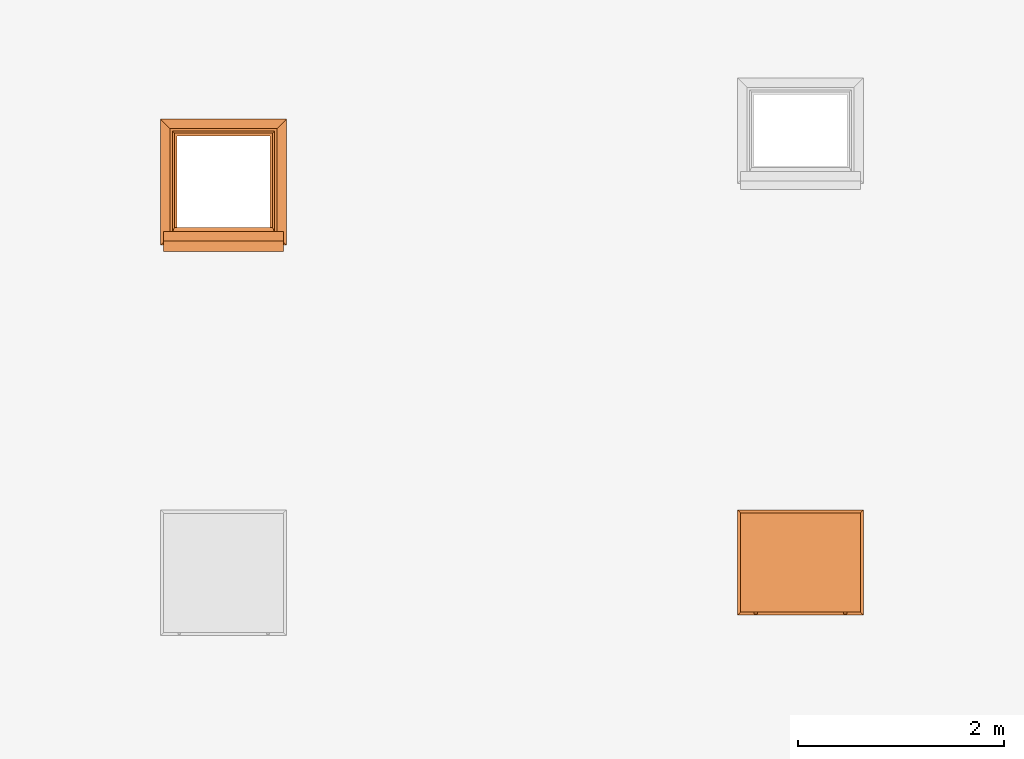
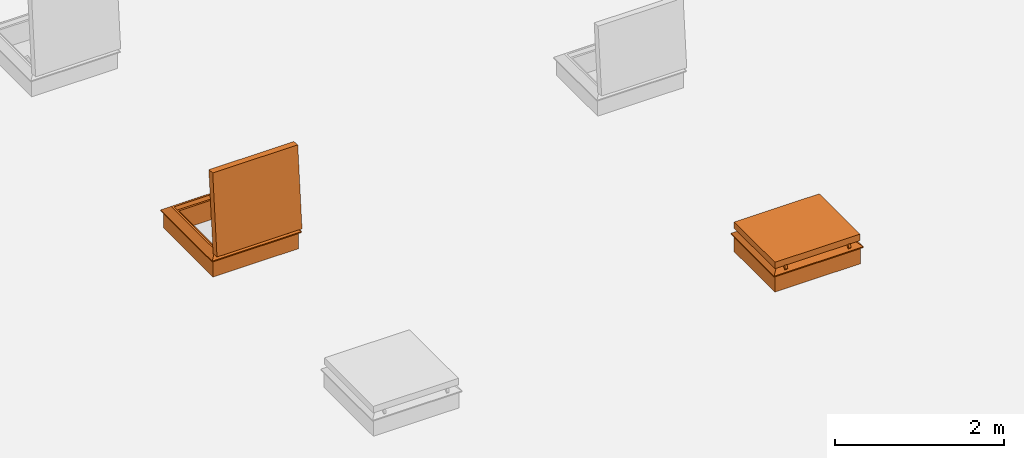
# One storey, part 24 of 28: 2 proxies.
"""IFC2X3 building model written with IfcOpenShell, lengths in millimetres."""

from ifc_helpers import new_model, entity, si_unit, converted_unit, derived_unit, direction, frame, origin, place, context, subcontext, project, spatial, faceted_brep, source, transform, mapped, type_object, type_shapes, element, save


model = new_model("IFC2X3")

# Units and contexts
model_context = context("Model", 3, precision=0.01, world=origin(), true_north=direction((6.12303176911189e-17, 1.0)))
body_context = subcontext(model_context, "Body", "Model", "MODEL_VIEW")
ifc_project = project(units=[si_unit("LENGTHUNIT", "METRE", prefix="MILLI"), si_unit("AREAUNIT", "SQUARE_METRE"), si_unit("VOLUMEUNIT", "CUBIC_METRE"), converted_unit("PLANEANGLEUNIT", "DEGREE", entity("IfcRatioMeasure", 0.0174532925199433), si_unit("PLANEANGLEUNIT", "RADIAN"), dimensions=[0, 0, 0, 0, 0, 0, 0]), si_unit("MASSUNIT", "GRAM", prefix="KILO"), derived_unit("MASSDENSITYUNIT", [(si_unit("MASSUNIT", "GRAM", prefix="KILO"), 1), (si_unit("LENGTHUNIT", "METRE"), -3)]), si_unit("TIMEUNIT", "SECOND"), si_unit("FREQUENCYUNIT", "HERTZ"), si_unit("THERMODYNAMICTEMPERATUREUNIT", "DEGREE_CELSIUS"), derived_unit("THERMALTRANSMITTANCEUNIT", [(si_unit("MASSUNIT", "GRAM", prefix="KILO"), 1), (si_unit("THERMODYNAMICTEMPERATUREUNIT", "KELVIN"), -1), (si_unit("TIMEUNIT", "SECOND"), -3)]), derived_unit("VOLUMETRICFLOWRATEUNIT", [(si_unit("LENGTHUNIT", "METRE"), 3), (si_unit("TIMEUNIT", "SECOND"), -1)]), si_unit("ELECTRICCURRENTUNIT", "AMPERE"), si_unit("ELECTRICVOLTAGEUNIT", "VOLT"), si_unit("POWERUNIT", "WATT"), si_unit("FORCEUNIT", "NEWTON", prefix="KILO"), si_unit("ILLUMINANCEUNIT", "LUX"), si_unit("LUMINOUSFLUXUNIT", "LUMEN"), si_unit("LUMINOUSINTENSITYUNIT", "CANDELA"), derived_unit("USERDEFINED", [(si_unit("MASSUNIT", "GRAM", prefix="KILO"), -1), (si_unit("LENGTHUNIT", "METRE"), -2), (si_unit("TIMEUNIT", "SECOND"), 3), (si_unit("LUMINOUSFLUXUNIT", "LUMEN"), 1)]), derived_unit("LINEARVELOCITYUNIT", [(si_unit("LENGTHUNIT", "METRE"), 1), (si_unit("TIMEUNIT", "SECOND"), -1)]), si_unit("PRESSUREUNIT", "PASCAL"), derived_unit("USERDEFINED", [(si_unit("LENGTHUNIT", "METRE"), -2), (si_unit("MASSUNIT", "GRAM", prefix="KILO"), 1), (si_unit("TIMEUNIT", "SECOND"), -2)])], contexts=[model_context])

# Site, building, storey
site_placement = place(None, origin())
site = spatial("IfcSite", under=ifc_project, at=site_placement, Name="Default", CompositionType="ELEMENT")
building_placement = place(site_placement, origin())
building = spatial("IfcBuilding", under=site, at=building_placement, CompositionType="ELEMENT")
storey_placement = place(building_placement, frame((0.0, 0.0, 4000.0)))
storey = spatial("IfcBuildingStorey", under=building, at=storey_placement, Name="Level 2", CompositionType="ELEMENT", Elevation=4000.0)

# Proxies
building_element_proxy_type_1 = type_object("IfcBuildingElementProxyType", Name="900 x 900", PredefinedType="NOTDEFINED")
shared_shape_1 = source(origin(), body_context, "Body", "Brep", [
    faceted_brep([(-1025.81180060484, -352.9006607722, 333.094802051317), (-1025.81180060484, -352.274840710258, 333.878753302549), (-1025.81180060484, -351.473721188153, 334.482440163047), (-1025.81180060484, -350.547639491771, 334.867930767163), (-1025.81180060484, -349.554784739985, 335.011003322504), (-1025.81180060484, -348.557541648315, 334.902668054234), (-1025.81180060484, -347.618570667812, 334.549732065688), (-1025.81180060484, -346.796870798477, 333.974371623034), (-1025.81180060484, -346.1440724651, 333.212738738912), (-1025.81180060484, -345.701193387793, 332.31268960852), (-1025.81180060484, -345.496061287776, 331.330777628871), (-1025.81180060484, -345.541565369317, 330.328699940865), (-1025.81180060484, -345.834846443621, 329.369420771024), (-1025.81180060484, -346.357476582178, 328.513215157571), (-1025.81180060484, -347.076617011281, 327.813881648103), (-1025.81180060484, -347.442865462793, 324.584309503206), (-1025.81180060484, -344.763632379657, 322.744205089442), (-1025.81180060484, -309.427027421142, 309.700701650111), (-1025.81180060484, -356.910862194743, 271.713633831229), (-1025.81180060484, -365.245617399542, 282.132077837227), (-1025.81180060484, -366.655242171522, 284.948025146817), (-1025.81180060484, -366.7901943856, 288.094195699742), (-1025.81180060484, -353.311858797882, 332.179844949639), (-998.815024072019, -365.245617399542, 282.132077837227), (-998.815024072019, -366.655242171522, 284.948025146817), (-998.815024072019, -366.7901943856, 288.094195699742), (-998.815024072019, -353.311858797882, 332.179844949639), (-998.815024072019, -352.9006607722, 333.094802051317), (-998.815024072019, -352.274840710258, 333.878753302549), (-998.815024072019, -351.473721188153, 334.482440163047), (-998.815024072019, -349.554784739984, 335.011003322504), (-998.815024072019, -348.557541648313, 334.902668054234), (-998.815024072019, -350.54763949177, 334.867930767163), (-998.815024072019, -347.618570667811, 334.549732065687), (-998.815024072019, -346.796870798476, 333.974371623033), (-998.815024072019, -345.701193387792, 332.312689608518), (-998.815024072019, -346.1440724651, 333.21273873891), (-998.815024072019, -345.496061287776, 331.330777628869), (-998.815024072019, -345.834846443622, 329.369420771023), (-998.815024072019, -346.357476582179, 328.51321515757), (-998.815024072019, -345.541565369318, 330.328699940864), (-998.815024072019, -347.076617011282, 327.813881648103), (-998.815024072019, -347.442865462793, 324.584309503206), (-998.815024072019, -344.763632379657, 322.744205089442), (-998.815024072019, -309.427027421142, 309.700701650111), (-998.815024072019, -356.910862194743, 271.713633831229)], [[[0, 1, 2, 3, 4, 5, 6, 7, 8, 9, 10, 11, 12, 13, 14, 15, 16, 17, 18, 19, 20, 21, 22]], [[19, 23, 24, 20]], [[24, 25, 21, 20]], [[22, 21, 25, 26]], [[1, 0, 27, 28]], [[27, 0, 22, 26]], [[29, 2, 1, 28]], [[30, 31, 5, 4]], [[4, 3, 32, 30]], [[32, 3, 2, 29]], [[31, 33, 6, 5]], [[33, 34, 7, 6]], [[35, 9, 8, 36]], [[36, 8, 7, 34]], [[10, 9, 35, 37]], [[13, 12, 38, 39]], [[12, 11, 40, 38]], [[40, 11, 10, 37]], [[41, 14, 13, 39]], [[41, 42, 15, 14]], [[43, 16, 15, 42]], [[17, 16, 43, 44]], [[18, 17, 44, 45]], [[19, 18, 45, 23]], [[45, 44, 43, 42, 41, 39, 38, 40, 37, 35, 36, 34, 33, 31, 30, 32, 29, 28, 27, 26, 25, 24, 23]]]),
    faceted_brep([(-165.338675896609, -356.910862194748, 271.713633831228), (-165.338675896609, -309.427027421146, 309.700701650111), (-134.958894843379, -309.427027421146, 309.700701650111), (-134.95889484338, -356.910862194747, 271.713633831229), (-165.338675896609, -365.245617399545, 282.132077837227), (-134.95889484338, -365.245617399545, 282.132077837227), (-134.95889484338, -366.655242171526, 284.948025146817), (-165.338675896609, -366.655242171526, 284.948025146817), (-134.95889484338, -366.790194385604, 288.094195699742), (-165.338675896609, -366.790194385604, 288.094195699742), (-165.338675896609, -353.311858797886, 332.179844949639), (-134.95889484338, -353.311858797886, 332.179844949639), (-134.95889484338, -352.900660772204, 333.094802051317), (-165.338675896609, -352.900660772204, 333.094802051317), (-165.338675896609, -352.274840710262, 333.878753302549), (-134.95889484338, -352.274840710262, 333.878753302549), (-134.95889484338, -351.473721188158, 334.482440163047), (-165.338675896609, -351.473721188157, 334.482440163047), (-165.338675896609, -349.554784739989, 335.011003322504), (-165.338675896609, -350.547639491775, 334.867930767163), (-134.95889484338, -350.547639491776, 334.867930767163), (-134.95889484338, -349.554784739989, 335.011003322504), (-134.95889484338, -348.557541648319, 334.902668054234), (-165.338675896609, -348.557541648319, 334.902668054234), (-134.95889484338, -347.618570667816, 334.549732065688), (-165.338675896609, -347.618570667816, 334.549732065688), (-134.95889484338, -346.796870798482, 333.974371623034), (-165.338675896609, -346.796870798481, 333.974371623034), (-134.95889484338, -346.144072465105, 333.212738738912), (-165.338675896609, -346.144072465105, 333.212738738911), (-165.338675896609, -345.701193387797, 332.31268960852), (-134.95889484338, -345.701193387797, 332.31268960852), (-134.95889484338, -345.49606128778, 331.330777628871), (-165.338675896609, -345.49606128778, 331.330777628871), (-165.338675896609, -345.834846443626, 329.369420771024), (-165.338675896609, -345.541565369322, 330.328699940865), (-134.95889484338, -345.541565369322, 330.328699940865), (-134.95889484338, -345.834846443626, 329.369420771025), (-134.95889484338, -346.357476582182, 328.513215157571), (-165.338675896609, -346.357476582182, 328.513215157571), (-134.95889484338, -347.076617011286, 327.813881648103), (-165.338675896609, -347.076617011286, 327.813881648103), (-134.95889484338, -347.442865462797, 324.584309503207), (-165.338675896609, -347.442865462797, 324.584309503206), (-134.95889484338, -344.763632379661, 322.744205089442), (-165.338675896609, -344.763632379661, 322.744205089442)], [[[0, 1, 2, 3]], [[4, 0, 3, 5]], [[4, 5, 6, 7]], [[6, 8, 9, 7]], [[10, 9, 8, 11]], [[12, 13, 10, 11]], [[14, 13, 12, 15]], [[15, 16, 17, 14]], [[18, 19, 20, 21]], [[21, 22, 23, 18]], [[16, 20, 19, 17]], [[22, 24, 25, 23]], [[24, 26, 27, 25]], [[28, 29, 27, 26]], [[30, 29, 28, 31]], [[31, 32, 33, 30]], [[34, 35, 36, 37]], [[37, 38, 39, 34]], [[32, 36, 35, 33]], [[38, 40, 41, 39]], [[40, 42, 43, 41]], [[44, 45, 43, 42]], [[1, 45, 44, 2]], [[2, 44, 42, 40, 38, 37, 36, 32, 31, 28, 26, 24, 22, 21, 20, 16, 15, 12, 11, 8, 6, 5, 3]], [[34, 39, 41, 43, 45, 1, 0, 4, 7, 9, 10, 13, 14, 17, 19, 18, 23, 25, 27, 29, 30, 33, 35]]]),
    faceted_brep([(-61.2697623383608, 753.447095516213, 328.0), (30.7302376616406, 845.447095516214, 254.4), (-1193.26976233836, 845.447095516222, 254.4), (-1101.26976233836, 753.44709551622, 328.0), (-105.269762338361, 709.447095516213, 282.0), (-85.7439207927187, 728.972937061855, 328.0), (-1076.795603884, 728.972937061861, 328.0), (-1057.26976233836, 709.447095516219, 282.0), (-131.26976233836, 683.447095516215, 0.0), (-131.26976233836, 683.447095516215, 282.0), (-1031.26976233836, 683.447095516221, 282.0), (-1031.26976233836, 683.447095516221, 0.0), (4.73023766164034, 819.447095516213, 240.0), (4.73023766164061, 819.447095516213, 0.0), (-1167.26976233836, 819.447095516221, 0.0), (-1167.26976233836, 819.44709551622, 240.0), (30.7302376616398, 845.447095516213, 240.0), (-1193.26976233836, 845.447095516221, 240.0), (-1193.26976233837, -378.552904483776, 254.4), (-1101.26976233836, -286.552904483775, 328.0), (-1076.79560388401, -262.078746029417, 328.0), (-1057.26976233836, -242.552904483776, 282.0), (-1031.26976233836, -216.552904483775, 282.0), (-1031.26976233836, -216.552904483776, 0.0), (-1167.26976233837, -352.552904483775, 0.0), (-1167.26976233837, -352.552904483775, 240.0), (-1193.26976233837, -378.552904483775, 240.0), (30.7302376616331, -378.552904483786, 254.4), (-61.2697623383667, -286.552904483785, 328.0), (-85.7439207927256, -262.078746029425, 328.0), (-105.269762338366, -242.552904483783, 282.0), (-131.269762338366, -216.552904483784, 282.0), (-131.269762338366, -216.552904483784, 0.0), (4.73023766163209, -352.552904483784, 0.0), (4.73023766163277, -352.552904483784, 240.0), (30.730237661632, -378.552904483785, 240.0)], [[[0, 1, 2, 3]], [[4, 5, 6, 7]], [[8, 9, 10, 11]], [[12, 13, 14, 15]], [[1, 16, 17, 2]], [[3, 2, 18, 19]], [[7, 6, 20, 21]], [[11, 10, 22, 23]], [[15, 14, 24, 25]], [[2, 17, 26, 18]], [[19, 18, 27, 28]], [[21, 20, 29, 30]], [[23, 22, 31, 32]], [[25, 24, 33, 34]], [[18, 26, 35, 27]], [[28, 27, 1, 0]], [[3, 19, 28, 0], [5, 29, 20, 6]], [[30, 29, 5, 4]], [[7, 21, 30, 4], [9, 31, 22, 10]], [[32, 31, 9, 8]], [[11, 23, 32, 8], [13, 33, 24, 14]], [[34, 33, 13, 12]], [[15, 25, 34, 12], [16, 35, 26, 17]], [[27, 35, 16, 1]]], outer=[[True], [True], [True], [True], [True], [True], [True], [True], [True], [True], [True], [True], [True], [True], [True], [True], [True, False], [True], [True, False], [True], [False, True], [True], [False, True], [True]]),
    faceted_brep([(-1033.97259076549, -350.291018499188, 1367.58602311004), (-1033.97259076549, -428.81834271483, 470.014600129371), (-128.272590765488, -428.81834271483, 470.014600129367), (-128.272590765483, -350.291018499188, 1367.58602311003), (-1033.97259076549, -211.421477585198, 1355.43651257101), (-128.272590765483, -211.421477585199, 1355.43651257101), (-128.272590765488, -289.94880180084, 457.865089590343), (-1033.97259076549, -289.94880180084, 457.865089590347)], [[[0, 1, 2, 3]], [[4, 5, 6, 7]], [[1, 0, 4, 7]], [[2, 1, 7, 6]], [[3, 2, 6, 5]], [[0, 3, 5, 4]]]),
    faceted_brep([(-128.272590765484, -211.421477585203, 1355.43651257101), (-128.272590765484, -350.291018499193, 1367.58602311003), (-1033.97259076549, -350.291018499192, 1367.58602311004), (-1033.97259076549, -211.421477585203, 1355.43651257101), (-85.2725907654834, -253.897214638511, 1402.31691105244), (-102.872590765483, -209.207721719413, 1380.73985790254), (-1059.37259076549, -209.207721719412, 1380.73985790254), (-1076.97259076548, -253.897214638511, 1402.31691105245), (0.727409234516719, -339.047927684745, 1496.09513916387), (0.727409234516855, -246.401820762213, 1487.98965508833), (-1162.97259076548, -246.401820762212, 1487.98965508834), (-1162.97259076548, -339.047927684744, 1496.09513916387), (-1033.97259076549, -428.818342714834, 470.014600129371), (-1033.97259076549, -289.948801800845, 457.865089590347), (-1059.37259076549, -292.162557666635, 432.561744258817), (-1076.97259076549, -339.919932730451, 419.072744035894), (-1162.97259076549, -347.41532660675, 333.400000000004), (-1162.97259076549, -440.061433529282, 341.505484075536), (-128.27259076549, -428.818342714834, 470.014600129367), (-128.272590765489, -289.948801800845, 457.865089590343), (-102.872590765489, -292.162557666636, 432.561744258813), (-85.2725907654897, -339.919932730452, 419.072744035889), (0.727409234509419, -347.41532660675, 333.399999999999), (0.727409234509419, -440.061433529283, 341.505484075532)], [[[0, 1, 2, 3]], [[4, 5, 6, 7]], [[8, 9, 10, 11]], [[3, 2, 12, 13]], [[7, 6, 14, 15]], [[11, 10, 16, 17]], [[13, 12, 18, 19]], [[15, 14, 20, 21]], [[17, 16, 22, 23]], [[19, 18, 1, 0]], [[3, 13, 19, 0], [5, 20, 14, 6]], [[21, 20, 5, 4]], [[7, 15, 21, 4], [9, 22, 16, 10]], [[23, 22, 9, 8]], [[1, 18, 12, 2], [11, 17, 23, 8]]], outer=[[True], [True], [True], [True], [True], [True], [True], [True], [True], [True], [False, True], [True], [False, True], [True], [False, True]]),
])
type_shapes(building_element_proxy_type_1, [shared_shape_1])
proxy_1_placement = place(storey_placement, frame((8335.61306223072, 1340.3358206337, 400.0)))
element("IfcBuildingElementProxy", 1, at=proxy_1_placement, inside=storey, type_object=building_element_proxy_type_1, Name="2_Topaccess_dakluik_900x900_Staka:900 x 900", ObjectType="900 x 900", context=body_context, shape_type="MappedRepresentation", body=[
    mapped(shared_shape_1, transform((0.0, 0.0, 0.0), scale=1.0)),
])
building_element_proxy_type_2 = type_object("IfcBuildingElementProxyType", Name="900 x 700", PredefinedType="NOTDEFINED")
shared_shape_2 = source(origin(), body_context, "Body", "Brep", [
    faceted_brep([(-1031.26976233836, -354.358761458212, 273.75531442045), (-1031.26976233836, -365.864908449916, 288.137998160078), (-1031.26976233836, -367.20140657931, 290.920914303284), (-1031.26976233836, -367.181926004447, 294.008060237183), (-1031.26976233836, -349.922619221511, 336.726343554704), (-1031.26976233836, -349.533801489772, 337.426363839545), (-1031.26976233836, -348.986173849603, 338.010582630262), (-1031.26976233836, -348.312728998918, 338.443802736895), (-1031.26976233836, -347.554039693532, 338.699924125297), (-1031.26976233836, -346.75581437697, 338.763516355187), (-1031.26976233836, -345.966143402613, 338.630748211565), (-1031.26976233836, -345.232601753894, 338.309618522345), (-1031.26976233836, -344.599382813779, 337.819474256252), (-1031.26976233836, -344.104635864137, 337.189844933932), (-1031.26976233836, -343.778167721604, 336.458663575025), (-1031.26976233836, -343.639646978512, 335.66998136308), (-1031.26976233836, -343.697419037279, 334.87131371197), (-1031.26976233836, -343.948003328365, 334.110777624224), (-1031.26976233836, -344.376303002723, 333.434192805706), (-1031.26976233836, -344.364435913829, 329.878928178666), (-1031.26976233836, -341.783092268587, 327.434196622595), (-1031.26976233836, -304.474443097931, 313.662769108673), (-997.506920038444, -354.358761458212, 273.75531442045), (-997.506920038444, -365.864908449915, 288.137998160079), (-997.506920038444, -367.20140657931, 290.920914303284), (-997.506920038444, -367.181926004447, 294.008060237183), (-997.506920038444, -349.922619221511, 336.726343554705), (-997.506920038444, -349.533801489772, 337.426363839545), (-997.506920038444, -348.986173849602, 338.010582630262), (-997.506920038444, -347.554039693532, 338.699924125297), (-997.506920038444, -346.75581437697, 338.763516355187), (-997.506920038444, -348.312728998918, 338.443802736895), (-997.506920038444, -345.966143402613, 338.630748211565), (-997.506920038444, -345.232601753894, 338.309618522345), (-997.506920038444, -344.104635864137, 337.189844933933), (-997.506920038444, -344.599382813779, 337.819474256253), (-997.506920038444, -343.778167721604, 336.458663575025), (-997.506920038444, -343.697419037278, 334.87131371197), (-997.506920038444, -343.948003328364, 334.110777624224), (-997.506920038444, -343.639646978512, 335.669981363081), (-997.506920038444, -344.376303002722, 333.434192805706), (-997.506920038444, -344.36443591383, 329.878928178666), (-997.506920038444, -341.783092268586, 327.434196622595), (-997.506920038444, -304.474443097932, 313.662769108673)], [[[0, 1, 2, 3, 4, 5, 6, 7, 8, 9, 10, 11, 12, 13, 14, 15, 16, 17, 18, 19, 20, 21]], [[1, 0, 22, 23]], [[1, 23, 24, 2]], [[24, 25, 3, 2]], [[4, 3, 25, 26]], [[27, 5, 4, 26]], [[28, 6, 5, 27]], [[29, 30, 9, 8]], [[8, 7, 31, 29]], [[31, 7, 6, 28]], [[32, 10, 9, 30]], [[11, 10, 32, 33]], [[34, 13, 12, 35]], [[36, 14, 13, 34]], [[37, 38, 17, 16]], [[16, 15, 39, 37]], [[39, 15, 14, 36]], [[40, 18, 17, 38]], [[12, 11, 33, 35]], [[40, 41, 19, 18]], [[42, 20, 19, 41]], [[21, 20, 42, 43]], [[0, 21, 43, 22]], [[22, 43, 42, 41, 40, 38, 37, 39, 36, 34, 35, 33, 32, 30, 29, 31, 28, 27, 26, 25, 24, 23]]]),
    faceted_brep([(-162.921907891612, -365.864908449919, 288.137998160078), (-162.921907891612, -354.358761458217, 273.75531442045), (-131.269762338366, -354.358761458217, 273.75531442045), (-131.269762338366, -365.864908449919, 288.137998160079), (-131.269762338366, -367.201406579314, 290.920914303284), (-162.921907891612, -367.201406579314, 290.920914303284), (-131.269762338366, -367.181926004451, 294.008060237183), (-162.921907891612, -367.181926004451, 294.008060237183), (-162.921907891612, -349.922619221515, 336.726343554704), (-131.269762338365, -349.922619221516, 336.726343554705), (-131.269762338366, -349.533801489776, 337.426363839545), (-162.921907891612, -349.533801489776, 337.426363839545), (-131.269762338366, -348.986173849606, 338.010582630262), (-162.921907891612, -348.986173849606, 338.010582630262), (-162.921907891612, -347.554039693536, 338.699924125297), (-162.921907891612, -348.312728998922, 338.443802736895), (-131.269762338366, -348.312728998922, 338.443802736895), (-131.269762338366, -347.554039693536, 338.699924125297), (-131.269762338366, -346.755814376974, 338.763516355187), (-162.921907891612, -346.755814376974, 338.763516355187), (-131.269762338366, -345.966143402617, 338.630748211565), (-162.921907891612, -345.966143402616, 338.630748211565), (-131.269762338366, -345.232601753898, 338.309618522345), (-162.921907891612, -345.232601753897, 338.309618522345), (-131.269762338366, -344.599382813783, 337.819474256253), (-162.921907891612, -344.599382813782, 337.819474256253), (-131.269762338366, -344.104635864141, 337.189844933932), (-162.921907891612, -344.104635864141, 337.189844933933), (-162.921907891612, -343.639646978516, 335.669981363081), (-162.921907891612, -343.778167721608, 336.458663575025), (-131.269762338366, -343.778167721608, 336.458663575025), (-131.269762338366, -343.639646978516, 335.66998136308), (-131.269762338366, -343.697419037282, 334.87131371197), (-162.921907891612, -343.697419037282, 334.87131371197), (-131.269762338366, -343.948003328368, 334.110777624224), (-162.921907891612, -343.948003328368, 334.110777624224), (-162.921907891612, -344.376303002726, 333.434192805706), (-131.269762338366, -344.376303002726, 333.434192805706), (-131.269762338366, -344.364435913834, 329.878928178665), (-162.921907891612, -344.364435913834, 329.878928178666), (-131.269762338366, -341.78309226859, 327.434196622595), (-162.921907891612, -341.78309226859, 327.434196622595), (-162.921907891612, -304.474443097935, 313.662769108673), (-131.269762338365, -304.474443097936, 313.662769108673)], [[[0, 1, 2, 3]], [[0, 3, 4, 5]], [[4, 6, 7, 5]], [[8, 7, 6, 9]], [[10, 11, 8, 9]], [[12, 13, 11, 10]], [[14, 15, 16, 17]], [[17, 18, 19, 14]], [[12, 16, 15, 13]], [[20, 21, 19, 18]], [[21, 20, 22, 23]], [[24, 25, 23, 22]], [[26, 27, 25, 24]], [[28, 29, 30, 31]], [[31, 32, 33, 28]], [[26, 30, 29, 27]], [[34, 35, 33, 32]], [[36, 35, 34, 37]], [[37, 38, 39, 36]], [[40, 41, 39, 38]], [[42, 41, 40, 43]], [[1, 42, 43, 2]], [[17, 16, 12, 10, 9, 6, 4, 3, 2, 43, 40, 38, 37, 34, 32, 31, 30, 26, 24, 22, 20, 18]], [[33, 35, 36, 39, 41, 42, 1, 0, 5, 7, 8, 11, 13, 15, 14, 19, 21, 23, 25, 27, 29, 28]]]),
    faceted_brep([(-61.2697623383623, 553.447095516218, 328.0), (30.7302376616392, 645.447095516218, 254.400000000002), (-1193.26976233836, 645.447095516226, 254.400000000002), (-1101.26976233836, 553.447095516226, 328.0), (-105.269762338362, 509.447095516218, 282.0), (-85.7439207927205, 528.97293706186, 328.0), (-1076.795603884, 528.972937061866, 328.0), (-1057.26976233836, 509.447095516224, 282.0), (-131.269762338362, 483.44709551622, 0.0), (-131.269762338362, 483.44709551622, 282.0), (-1031.26976233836, 483.447095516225, 282.0), (-1031.26976233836, 483.447095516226, 0.0), (4.73023766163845, 619.447095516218, 240.0), (4.73023766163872, 619.447095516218, 0.0), (-1167.26976233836, 619.447095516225, 0.0), (-1167.26976233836, 619.447095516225, 240.0), (30.7302376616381, 645.447095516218, 240.0), (-1193.26976233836, 645.447095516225, 240.0), (-1193.26976233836, -378.552904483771, 254.400000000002), (-1101.26976233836, -286.55290448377, 328.0), (-1076.795603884, -262.078746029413, 328.0), (-1057.26976233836, -242.552904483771, 282.0), (-1031.26976233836, -216.552904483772, 282.0), (-1031.26976233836, -216.552904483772, 0.0), (-1167.26976233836, -352.55290448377, 0.0), (-1167.26976233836, -352.55290448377, 240.0), (-1193.26976233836, -378.552904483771, 240.0), (30.7302376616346, -378.552904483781, 254.400000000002), (-61.2697623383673, -286.552904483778, 328.0), (-85.7439207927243, -262.07874602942, 328.0), (-105.269762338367, -242.552904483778, 282.0), (-131.269762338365, -216.552904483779, 282.0), (-131.269762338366, -216.55290448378, 0.0), (4.73023766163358, -352.552904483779, 0.0), (4.73023766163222, -352.552904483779, 240.0), (30.7302376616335, -378.55290448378, 240.0)], [[[0, 1, 2, 3]], [[4, 5, 6, 7]], [[8, 9, 10, 11]], [[12, 13, 14, 15]], [[1, 16, 17, 2]], [[3, 2, 18, 19]], [[7, 6, 20, 21]], [[11, 10, 22, 23]], [[15, 14, 24, 25]], [[2, 17, 26, 18]], [[19, 18, 27, 28]], [[21, 20, 29, 30]], [[23, 22, 31, 32]], [[25, 24, 33, 34]], [[18, 26, 35, 27]], [[28, 27, 1, 0]], [[3, 19, 28, 0], [5, 29, 20, 6]], [[30, 29, 5, 4]], [[7, 21, 30, 4], [9, 31, 22, 10]], [[32, 31, 9, 8]], [[11, 23, 32, 8], [13, 33, 24, 14]], [[34, 33, 13, 12]], [[15, 25, 34, 12], [16, 35, 26, 17]], [[27, 35, 16, 1]]], outer=[[True], [True], [True], [True], [True], [True], [True], [True], [True], [True], [True], [True], [True], [True], [True], [True], [True, False], [True], [True, False], [True], [False, True], [True], [False, True], [True]]),
    faceted_brep([(-1034.26693391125, 487.584673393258, 426.399999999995), (-1034.26693391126, -218.415326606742, 426.399999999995), (-128.266933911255, -218.415326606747, 426.399999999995), (-128.266933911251, 487.584673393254, 426.399999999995), (-1034.26693391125, 487.584673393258, 287.0), (-128.266933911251, 487.584673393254, 287.0), (-128.266933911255, -218.415326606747, 287.0), (-1034.26693391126, -218.415326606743, 287.0)], [[[0, 1, 2, 3]], [[4, 5, 6, 7]], [[1, 0, 4, 7]], [[2, 1, 7, 6]], [[3, 2, 6, 5]], [[0, 3, 5, 4]]]),
    faceted_brep([(-128.266933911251, 487.584673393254, 287.0), (-128.266933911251, 487.584673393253, 426.399999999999), (-1034.26693391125, 487.584673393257, 426.399999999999), (-1034.26693391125, 487.584673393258, 287.0), (-85.2669339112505, 530.584673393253, 333.399999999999), (-102.86693391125, 512.984673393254, 287.0), (-1059.66693391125, 512.984673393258, 287.0), (-1077.26693391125, 530.584673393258, 333.399999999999), (0.733066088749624, 616.584673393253, 426.399999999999), (0.733066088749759, 616.584673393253, 333.399999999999), (-1163.26693391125, 616.584673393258, 333.399999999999), (-1163.26693391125, 616.584673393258, 426.399999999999), (-1034.26693391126, -218.415326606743, 426.399999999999), (-1034.26693391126, -218.415326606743, 287.0), (-1059.66693391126, -243.815326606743, 287.0), (-1077.26693391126, -261.415326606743, 333.399999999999), (-1163.26693391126, -347.415326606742, 333.399999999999), (-1163.26693391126, -347.415326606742, 426.399999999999), (-128.266933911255, -218.415326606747, 426.399999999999), (-128.266933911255, -218.415326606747, 287.0), (-102.866933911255, -243.815326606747, 287.0), (-85.2669339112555, -261.415326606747, 333.399999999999), (0.733066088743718, -347.415326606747, 333.399999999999), (0.733066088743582, -347.415326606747, 426.399999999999)], [[[0, 1, 2, 3]], [[4, 5, 6, 7]], [[8, 9, 10, 11]], [[3, 2, 12, 13]], [[7, 6, 14, 15]], [[11, 10, 16, 17]], [[13, 12, 18, 19]], [[15, 14, 20, 21]], [[17, 16, 22, 23]], [[19, 18, 1, 0]], [[3, 13, 19, 0], [5, 20, 14, 6]], [[21, 20, 5, 4]], [[7, 15, 21, 4], [9, 22, 16, 10]], [[23, 22, 9, 8]], [[1, 18, 12, 2], [11, 17, 23, 8]]], outer=[[True], [True], [True], [True], [True], [True], [True], [True], [True], [True], [False, True], [True], [False, True], [True], [False, True]]),
])
type_shapes(building_element_proxy_type_2, [shared_shape_2])
proxy_2_placement = place(storey_placement, frame((13947.8893775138, -2259.66417936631, 400.0)))
element("IfcBuildingElementProxy", 2, at=proxy_2_placement, inside=storey, type_object=building_element_proxy_type_2, Name="1_Topaccess_dakluik_900x700_Staka:900 x 700", ObjectType="900 x 700", context=body_context, shape_type="MappedRepresentation", body=[
    mapped(shared_shape_2, transform((0.0, 0.0, 0.0), scale=1.0)),
])

save(model, "model.ifc")
